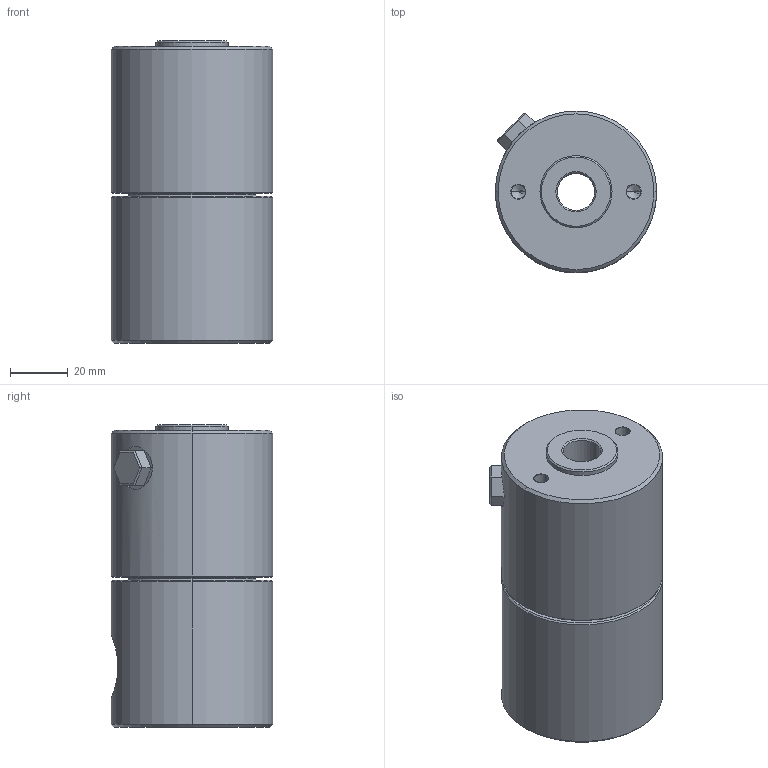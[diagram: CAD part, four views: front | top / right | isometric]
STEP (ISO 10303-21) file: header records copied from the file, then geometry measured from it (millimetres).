
FILE_DESCRIPTION (( 'STEP AP203' ), '1' );
FILE_NAME ('4610-211.STEP', '2016-01-29T10:18:37', ( '' ), ( '' ), 'SwSTEP 2.0', 'SolidWorks 2015', '' );
FILE_SCHEMA (( 'CONFIG_CONTROL_DESIGN' ));
Length unit declared in the file: millimetre
Products named in the file (1): 4610-211
Bounding box: 56 x 56 x 105 mm (x, y, z)
Volume: 235995.9 mm3; surface area: 30535.3 mm2
Topology: 1 solids, 1 shells, 75 faces, 162 edges, 94 vertices
Faces by surface type: cone 26, cylinder 24, plane 21, torus 4
Entity records: 2347 total; most frequent: CARTESIAN_POINT 626, DIRECTION 366, ORIENTED_EDGE 316, EDGE_CURVE 158, AXIS2_PLACEMENT_3D 144, VERTEX_POINT 94, EDGE_LOOP 88, VECTOR 78
